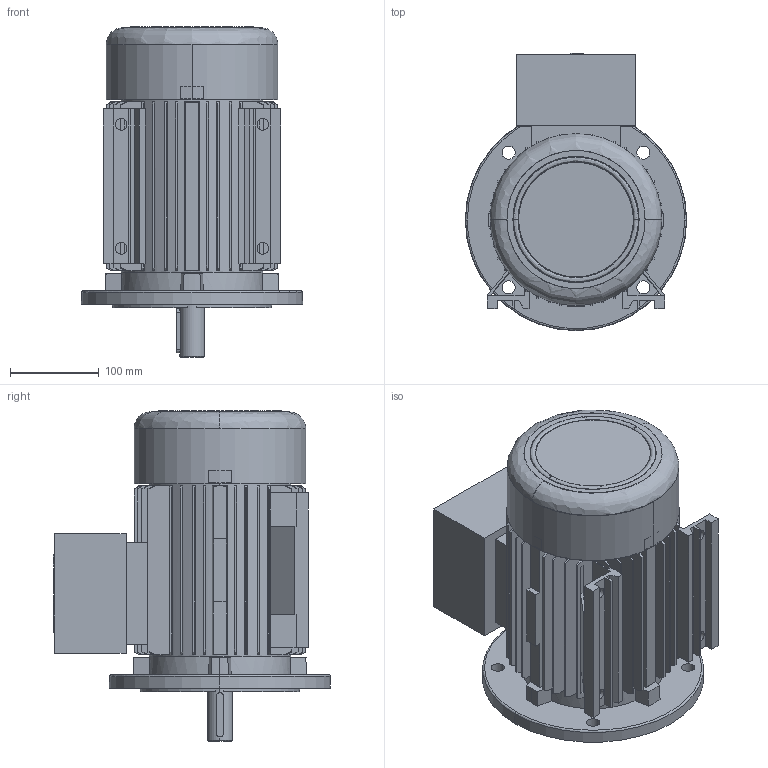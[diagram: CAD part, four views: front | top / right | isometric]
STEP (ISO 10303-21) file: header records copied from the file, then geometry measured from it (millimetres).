
FILE_DESCRIPTION (( 'STEP AP214' ), '1' );
FILE_NAME ('20.17500-E 5AT 100 B35 Exde STANDK.STEP', '2018-11-15T10:18:55', ( '' ), ( '' ), 'SwSTEP 2.0', 'SolidWorks 2018', '' );
FILE_SCHEMA (( 'AUTOMOTIVE_DESIGN' ));
Length unit declared in the file: millimetre
Products named in the file (1): 20.17500-E 5AT 100 B35 Exde STANDK
Bounding box: 249.9 x 312.95 x 373.3 mm (x, y, z)
Volume: 5133422.9 mm3; surface area: 947747.4 mm2
Topology: 3 solids, 3 shells, 737 faces, 1930 edges, 1256 vertices
Faces by surface type: plane 420, cone 151, cylinder 140, bspline 26
Entity records: 31994 total; most frequent: CARTESIAN_POINT 7714, ORIENTED_EDGE 3828, DIRECTION 3650, EDGE_CURVE 1914, AXIS2_PLACEMENT_3D 1312, VERTEX_POINT 1256, LINE 1026, VECTOR 1026
